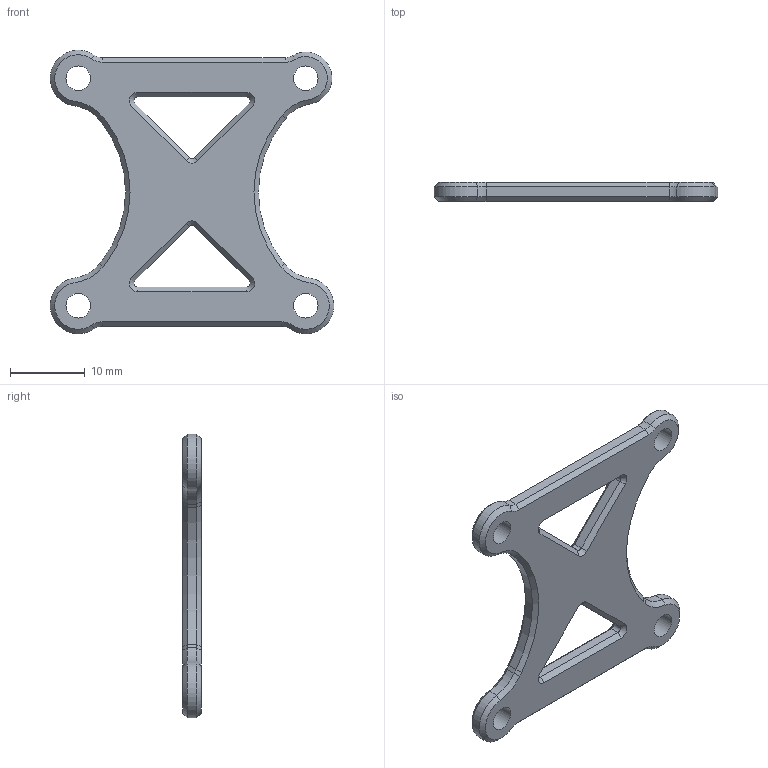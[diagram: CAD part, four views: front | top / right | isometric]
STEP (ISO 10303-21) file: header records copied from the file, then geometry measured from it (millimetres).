
FILE_DESCRIPTION(/* description */ (''),/* implementation_level */ '2;1');
FILE_NAME(/* name */ 'D:\3D Printing & CAD Work\Customers\My self\Drone 3.0\Thingiverce\Part11.stp',/* time_stamp */ '2018-11-19T19:03:27+02:00',/* author */ ('Damien'),/* organization */ (''),/* preprocessor_version */ 'ST-DEVELOPER v17',/* originating_system */ 'Autodesk Inventor 2018',/* authorisation */ '');
FILE_SCHEMA (('AUTOMOTIVE_DESIGN { 1 0 10303 214 3 1 1 }'));
Length unit declared in the file: millimetre
Products named in the file (1): Part11
Bounding box: 37.98 x 2.5 x 37.97 mm (x, y, z)
Volume: 1905.6 mm3; surface area: 2131.2 mm2
Topology: 1 solids, 1 shells, 102 faces, 236 edges, 136 vertices
Faces by surface type: cone 40, plane 38, cylinder 24
Full cylindrical faces by diameter (mm): 3.3 x4
Entity records: 2899 total; most frequent: DIRECTION 530, CARTESIAN_POINT 475, ORIENTED_EDGE 472, EDGE_CURVE 236, AXIS2_PLACEMENT_3D 191, LINE 148, VECTOR 148, VERTEX_POINT 136
